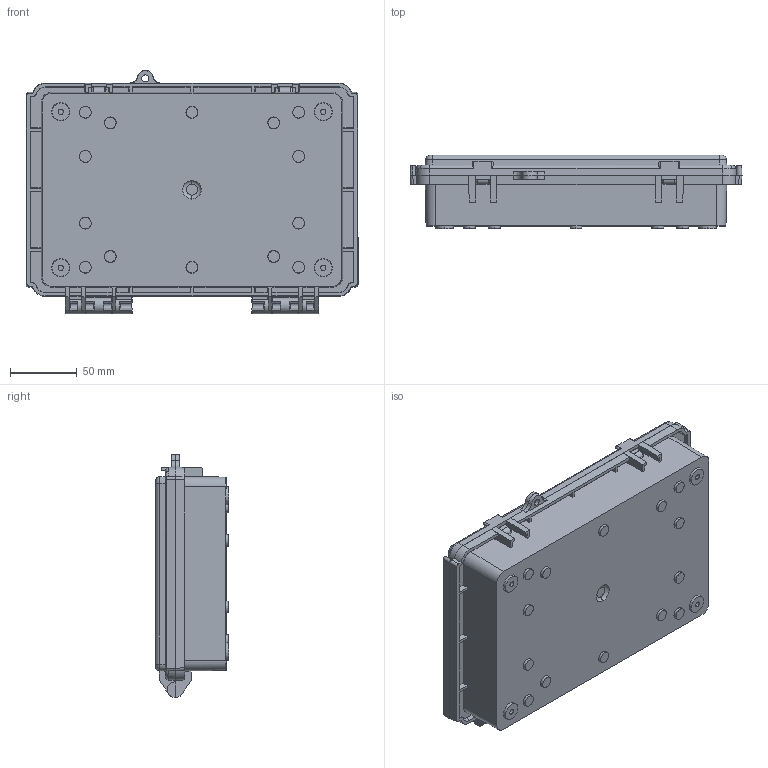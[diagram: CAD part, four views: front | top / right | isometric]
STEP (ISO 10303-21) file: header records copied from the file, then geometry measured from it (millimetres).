
FILE_DESCRIPTION (( 'STEP AP203' ), '1' );
FILE_NAME ('EC-1624-5.STEP', '2021-08-19T08:30:59', ( '' ), ( '' ), 'SwSTEP 2.0', 'SolidWorks 2021', '' );
FILE_SCHEMA (( 'CONFIG_CONTROL_DESIGN' ));
Length unit declared in the file: millimetre
Products named in the file (3): EC-1624-5; Govde; Kapak
Assembly tree (2 placements, depth 2):
  EC-1624-5
    Govde
    Kapak
Bounding box: 249 x 55 x 182.4 mm (x, y, z)
Volume: 423898.3 mm3; surface area: 257219.6 mm2
Topology: 2 solids, 2 shells, 655 faces, 1715 edges, 1112 vertices
Faces by surface type: plane 392, cylinder 108, cone 104, bspline 40, torus 10, sphere 1
Entity records: 21599 total; most frequent: CARTESIAN_POINT 5648, ORIENTED_EDGE 3424, DIRECTION 3050, EDGE_CURVE 1712, VECTOR 1122, LINE 1122, VERTEX_POINT 1110, AXIS2_PLACEMENT_3D 964
